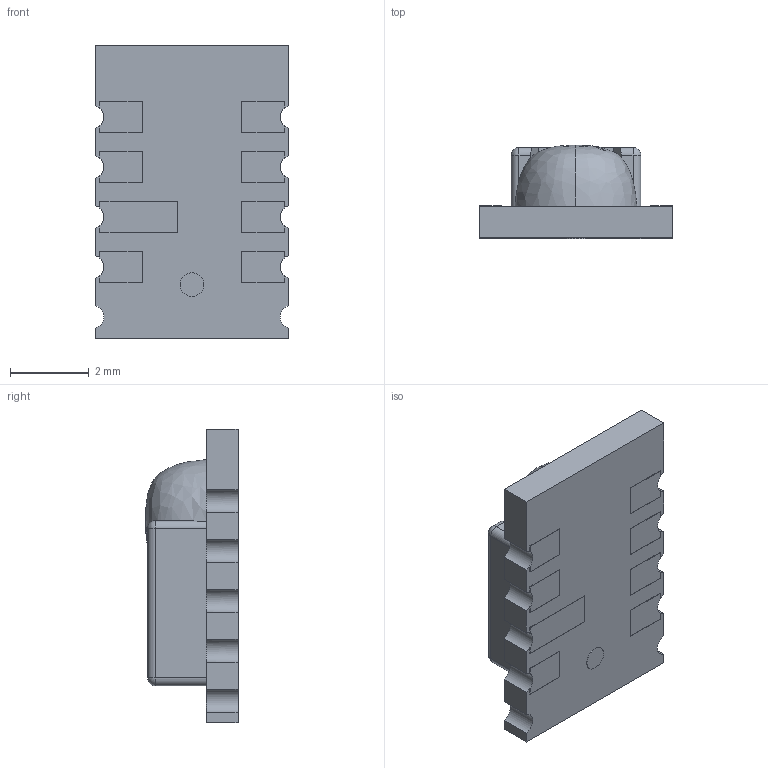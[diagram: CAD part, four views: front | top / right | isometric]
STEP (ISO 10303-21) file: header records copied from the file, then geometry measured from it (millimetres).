
FILE_DESCRIPTION (( 'STEP AP214' ), '1' );
FILE_NAME ('SHT1x.STEP', '2010-02-16T14:37:36', ( 'IT' ), ( '' ), 'SwSTEP 2.0', 'SolidWorks 2009', '' );
FILE_SCHEMA (( 'AUTOMOTIVE_DESIGN' ));
Length unit declared in the file: millimetre
Products named in the file (1): SHT1x
Bounding box: 4.93 x 2.36 x 7.47 mm (x, y, z)
Volume: 41 mm3; surface area: 177 mm2
Topology: 3 solids, 3 shells, 307 faces, 852 edges, 557 vertices
Faces by surface type: plane 219, bspline 55, cylinder 25, sphere 4, cone 4
Entity records: 14533 total; most frequent: CARTESIAN_POINT 3654, ORIENTED_EDGE 1692, DIRECTION 1294, EDGE_CURVE 846, LINE 612, VECTOR 612, VERTEX_POINT 557, AXIS2_PLACEMENT_3D 341
